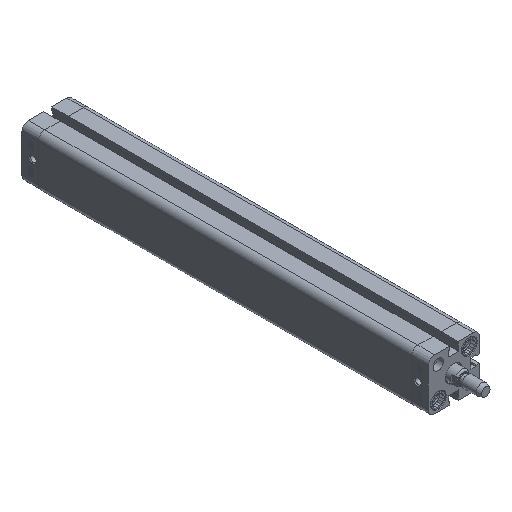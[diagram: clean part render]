
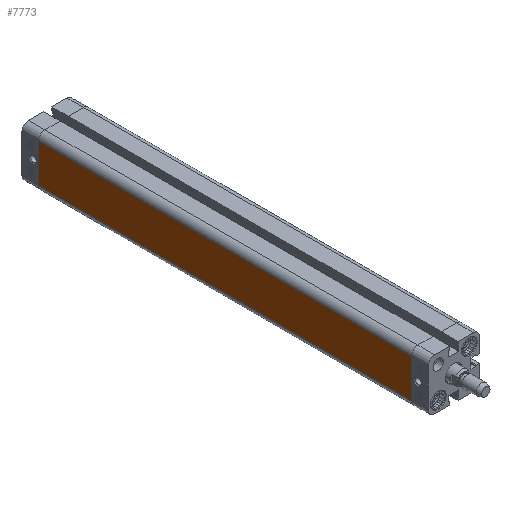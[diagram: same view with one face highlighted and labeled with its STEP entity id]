
A CAD part, isometric view. The second image highlights one B-rep face of the part: STEP entity #7773.
In plain terms, the highlighted planar face has unit normal (-1, 0, 0).
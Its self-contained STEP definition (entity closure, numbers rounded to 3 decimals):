
#6294=CARTESIAN_POINT('',(-18.15,-263.5,13.65));
#6295=VERTEX_POINT('',#6294);
#6302=CARTESIAN_POINT('',(-18.15,-263.5,-13.65));
#6303=VERTEX_POINT('',#6302);
#6304=CARTESIAN_POINT('',(-18.15,-263.5,-13.65));
#6305=DIRECTION('',(0.0,0.0,1.0));
#6306=VECTOR('',#6305,27.3);
#6307=LINE('',#6304,#6306);
#6308=EDGE_CURVE('',#6303,#6295,#6307,.T.);
#7731=CARTESIAN_POINT('',(-18.15,0.0,-13.65));
#7732=VERTEX_POINT('',#7731);
#7733=CARTESIAN_POINT('',(-18.15,0.0,-13.65));
#7734=DIRECTION('',(0.0,-1.0,0.0));
#7735=VECTOR('',#7734,263.5);
#7736=LINE('',#7733,#7735);
#7737=EDGE_CURVE('',#7732,#6303,#7736,.T.);
#7750=CARTESIAN_POINT('',(-18.15,0.0,-13.65));
#7751=DIRECTION('',(-1.0,0.0,0.0));
#7752=DIRECTION('',(0.0,0.0,1.0));
#7753=AXIS2_PLACEMENT_3D('',#7750,#7751,#7752);
#7754=PLANE('',#7753);
#7755=ORIENTED_EDGE('',*,*,#6308,.T.);
#7756=CARTESIAN_POINT('',(-18.15,0.0,13.65));
#7757=VERTEX_POINT('',#7756);
#7758=CARTESIAN_POINT('',(-18.15,0.0,13.65));
#7759=DIRECTION('',(0.0,-1.0,0.0));
#7760=VECTOR('',#7759,263.5);
#7761=LINE('',#7758,#7760);
#7762=EDGE_CURVE('',#7757,#6295,#7761,.T.);
#7763=ORIENTED_EDGE('',*,*,#7762,.F.);
#7764=CARTESIAN_POINT('',(-18.15,0.0,-13.65));
#7765=DIRECTION('',(0.0,0.0,1.0));
#7766=VECTOR('',#7765,27.3);
#7767=LINE('',#7764,#7766);
#7768=EDGE_CURVE('',#7732,#7757,#7767,.T.);
#7769=ORIENTED_EDGE('',*,*,#7768,.F.);
#7770=ORIENTED_EDGE('',*,*,#7737,.T.);
#7771=EDGE_LOOP('',(#7755,#7763,#7769,#7770));
#7772=FACE_OUTER_BOUND('',#7771,.T.);
#7773=ADVANCED_FACE('',(#7772),#7754,.T.);
